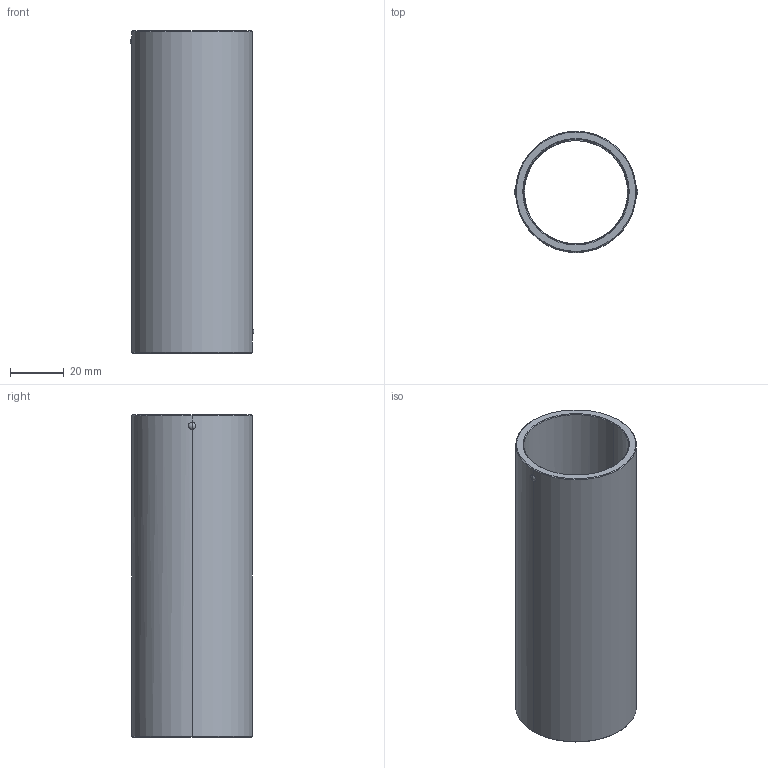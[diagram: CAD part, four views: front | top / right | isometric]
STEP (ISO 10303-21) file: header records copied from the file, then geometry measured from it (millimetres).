
FILE_DESCRIPTION(('CATIA V5 STEP Exchange'),'2;1');
FILE_NAME('C:\Users\Utente\Desktop\IO LAVORO\3D X SITO CF\X SITO\730\730-38x120.stp','2021-01-07T16:08:04+00:00',('none'),('none'),'CATIA Version 5 Release 20 GA (IN-10)','CATIA V5 STEP AP203','none');
FILE_SCHEMA(('CONFIG_CONTROL_DESIGN'));
Length unit declared in the file: millimetre
Products named in the file (1): 730-38x120
Bounding box: 45.99 x 45 x 120 mm (x, y, z)
Volume: 46409.4 mm3; surface area: 32907.9 mm2
Topology: 1 solids, 1 shells, 44 faces, 120 edges, 76 vertices
Faces by surface type: cylinder 18, cone 10, plane 8, sphere 8
Entity records: 1739 total; most frequent: CARTESIAN_POINT 676, ORIENTED_EDGE 240, DIRECTION 159, EDGE_CURVE 120, AXIS2_PLACEMENT_3D 78, VERTEX_POINT 76, B_SPLINE_CURVE_WITH_KNOTS 49, EDGE_LOOP 48
